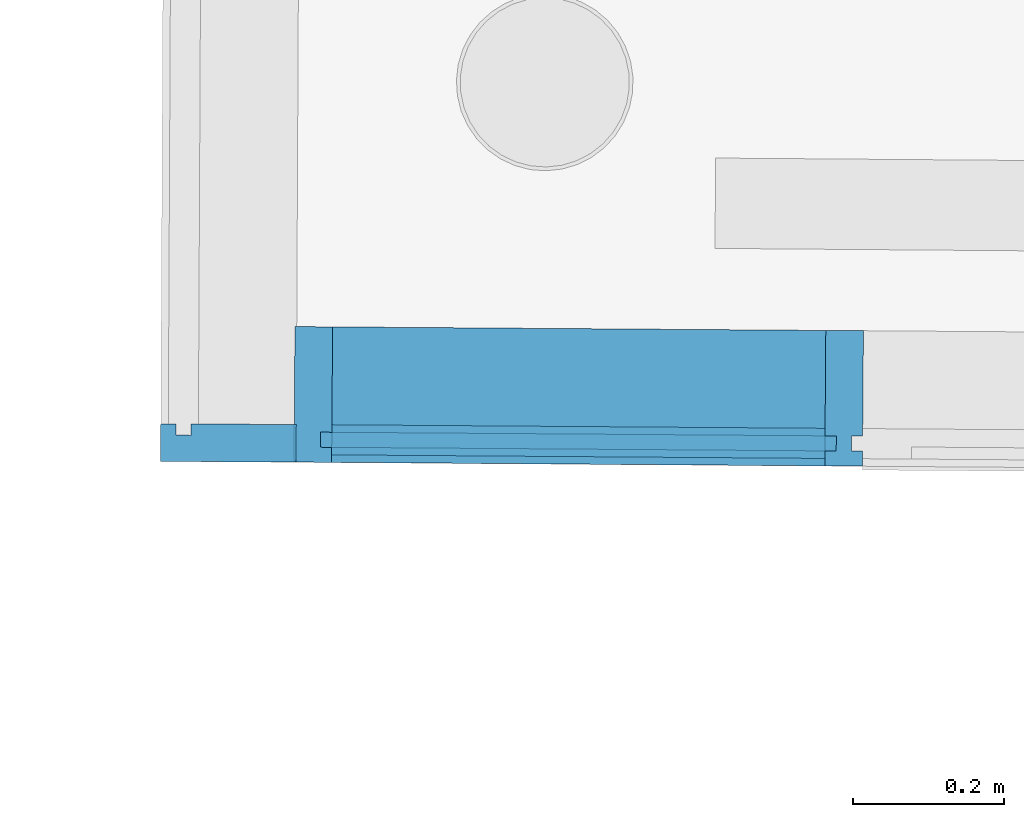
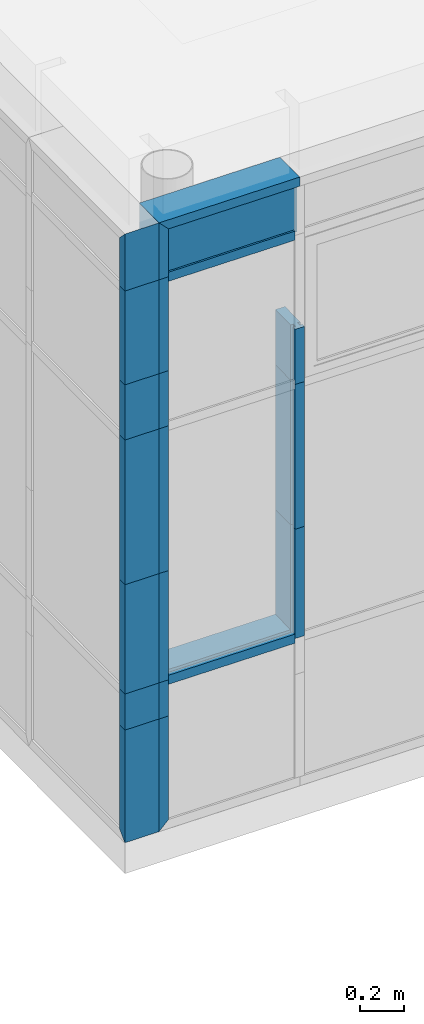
# One storey, part 166 of 196: 21 building element parts, 2 elements without a shape of their own.
"""IFC2X3 building model written with IfcOpenShell, lengths in metres."""

import ifcopenshell
import ifcopenshell.guid

model = None  # the IFC model being written
_history = None  # IfcOwnerHistory: only IFC2X3 demands one
_inside = {}  # id of a spatial element -> (the spatial element, [elements in it])
_under = {}  # id of a project, library or spatial element -> (it, [spatial elements below it])
_declared = {}  # id of a project -> (the project, [libraries it declares])
_typed = {}  # id of a type object -> (the type object, [elements of that type])
_made_of = {}  # id of a material, layer set ... -> (it, [elements and type objects made of it])


def new_model(schema):
    """Start an empty IFC model of exactly this schema.

    Asked for "IFC4X3", IfcOpenShell would pick the latest addendum, in which some entities
    have other attributes; the version numbers below select the first issue.
    IFC2X3 requires an IfcOwnerHistory on every rooted entity: one is made here for all.
    """
    global model, _history
    if schema == "IFC4X3":
        model = ifcopenshell.file(schema_version=(4, 3, 0, 0))
    else:
        model = ifcopenshell.file(schema=schema)
    _inside.clear()
    _under.clear()
    _declared.clear()
    _typed.clear()
    _made_of.clear()
    _history = None
    if model.schema == "IFC2X3":
        org = make("IfcOrganization", Name="unknown")
        user = make(
            "IfcPersonAndOrganization",
            ThePerson=make("IfcPerson", FamilyName="unknown"),
            TheOrganization=org,
        )
        app = make(
            "IfcApplication",
            ApplicationDeveloper=org,
            Version="unknown",
            ApplicationFullName="unknown",
            ApplicationIdentifier="unknown",
        )
        _history = make(
            "IfcOwnerHistory",
            OwningUser=user,
            OwningApplication=app,
            ChangeAction="ADDED",
            CreationDate=0,
        )
    return model


def make(cls, **values):
    """One entity of the class cls with the attributes given. An attribute that is None is left unset."""
    return model.create_entity(
        cls, **{name: value for name, value in values.items() if value is not None}
    )


def entity(cls, *values):
    """Any entity or typed value of the class cls, its attributes in the order of the schema. None: left unset."""
    e = model.create_entity(cls)
    for i, value in enumerate(values):
        if value is not None:
            e[i] = value
    return e


def rooted(cls, **values):
    """An entity with a GlobalId (a new one), such as an element, a storey or a relation."""
    return make(cls, GlobalId=ifcopenshell.guid.new(), OwnerHistory=_history, **values)


def si_unit(unit_type, name, prefix=None):
    """IfcSIUnit, for example si_unit("LENGTHUNIT", "METRE", prefix="MILLI")."""
    return make("IfcSIUnit", UnitType=unit_type, Prefix=prefix, Name=name)


def converted_unit(unit_type, name, factor, base, dimensions=None, offset=None):
    """IfcConversionBasedUnit, such as the inch: factor (a typed value) times the base unit."""
    return make(
        "IfcConversionBasedUnit"
        if offset is None
        else "IfcConversionBasedUnitWithOffset",
        ConversionOffset=offset,
        Dimensions=None
        if dimensions is None
        else entity("IfcDimensionalExponents", *dimensions),
        UnitType=unit_type,
        Name=name,
        ConversionFactor=make(
            "IfcMeasureWithUnit", ValueComponent=factor, UnitComponent=base
        ),
    )


def derived_unit(unit_type, elements):
    """IfcDerivedUnit: a product of units, each with its exponent."""
    return make(
        "IfcDerivedUnit",
        Elements=[
            make("IfcDerivedUnitElement", Unit=unit, Exponent=power)
            for unit, power in elements
        ],
        UnitType=unit_type,
    )


def money_unit(currency):
    """IfcMonetaryUnit."""
    return make("IfcMonetaryUnit", Currency=currency)


def assignment(units):
    """IfcUnitAssignment: the units of a project."""
    return None if units is None else make("IfcUnitAssignment", Units=units)


def point(xyz):
    """IfcCartesianPoint."""
    return None if xyz is None else make("IfcCartesianPoint", Coordinates=xyz)


def direction(xyz):
    """IfcDirection."""
    return None if xyz is None else make("IfcDirection", DirectionRatios=xyz)


def frame(location, z_axis=None, x_axis=None):
    """IfcAxis2Placement3D, a coordinate frame: its origin and axes. An axis left out is left unset."""
    return make(
        "IfcAxis2Placement3D",
        Location=point(location),
        Axis=direction(z_axis),
        RefDirection=direction(x_axis),
    )


def origin_with_axes():
    """The frame at (0, 0, 0) with the z axis (0, 0, 1) and the x axis (1, 0, 0) written out."""
    return frame((0.0, 0.0, 0.0), z_axis=(0.0, 0.0, 1.0), x_axis=(1.0, 0.0, 0.0))


def place(relative_to, where):
    """IfcLocalPlacement: puts the frame where relative to a parent placement (None: the world)."""
    return make(
        "IfcLocalPlacement", PlacementRelTo=relative_to, RelativePlacement=where
    )


def context(
    kind, dimensions, precision=None, world=None, true_north=None, identifier=None
):
    """IfcGeometricRepresentationContext, for example the 3D "Model" context."""
    return make(
        "IfcGeometricRepresentationContext",
        ContextIdentifier=identifier,
        ContextType=kind,
        CoordinateSpaceDimension=dimensions,
        Precision=precision,
        WorldCoordinateSystem=world,
        TrueNorth=true_north,
    )


def subcontext(parent, identifier, kind, view, scale=None):
    """IfcGeometricRepresentationSubContext, for example "Body" below "Model"."""
    return make(
        "IfcGeometricRepresentationSubContext",
        ContextIdentifier=identifier,
        ContextType=kind,
        ParentContext=parent,
        TargetScale=scale,
        TargetView=view,
    )


def project(units=None, contexts=None):
    """IfcProject with its units and contexts."""
    return rooted(
        "IfcProject",
        Name="project",
        RepresentationContexts=contexts,
        UnitsInContext=assignment(units),
    )


def spatial(cls, under=None, at=None, **own):
    """A site, building, storey or space (cls), placed at a placement, below another one or the project."""
    s = rooted(cls, ObjectPlacement=at, **own)
    if under is not None:
        _under.setdefault(under.id(), (under, []))[1].append(s)
    return s


def faces_of(points, faces, orient=None, outer=None):
    """IfcFace entities. A face is a list of loops; a loop is a list of indices into points, from 0.

    orient and outer hold one flag for each loop. By default every Orientation is true, the
    first loop of a face is its IfcFaceOuterBound and the others are IfcFaceBound.
    """
    made = []
    for i, loops in enumerate(faces):
        bounds = []
        for j, loop in enumerate(loops):
            is_outer = j == 0 if outer is None else outer[i][j]
            bounds.append(
                make(
                    "IfcFaceOuterBound" if is_outer else "IfcFaceBound",
                    Bound=make("IfcPolyLoop", Polygon=[points[k] for k in loop]),
                    Orientation=True if orient is None else orient[i][j],
                )
            )
        made.append(make("IfcFace", Bounds=bounds))
    return made


def faceted_brep(points, faces, orient=None, outer=None, voids=None):
    """IfcFacetedBrep: a solid bounded by flat faces; with voids (closed shells), ...WithVoids."""
    shared = [point(p) for p in points]
    hull = make("IfcClosedShell", CfsFaces=faces_of(shared, faces, orient, outer))
    if voids is None:
        return make("IfcFacetedBrep", Outer=hull)
    return make(
        "IfcFacetedBrepWithVoids",
        Outer=hull,
        Voids=[
            make(cls, CfsFaces=faces_of(shared, fs, o, b)) for cls, fs, o, b in voids
        ],
    )


def shape(context_of_items, identifier, shape_type, items):
    """IfcShapeRepresentation: the items that make up one representation, for example the "Body"."""
    return make(
        "IfcShapeRepresentation",
        ContextOfItems=context_of_items,
        RepresentationIdentifier=identifier,
        RepresentationType=shape_type,
        Items=items,
    )


def material(Name=None, Category=None):
    """IfcMaterial."""
    return make("IfcMaterial", Name=Name, Category=Category)


def made_of(thing, what):
    """Note that an element or type object is made of a material, layer set ...; save() writes the relation."""
    if what is not None:
        _made_of.setdefault(what.id(), (what, []))[1].append(thing)
    return thing


def type_object(cls, material=None, **own):
    """A type object (cls), such as IfcWallType, which elements share."""
    return made_of(rooted(cls, **own), material)


def element(
    cls,
    number,
    at=None,
    inside=None,
    cuts=None,
    type_object=None,
    material=None,
    context=None,
    identifier="Body",
    shape_type=None,
    held_by="IfcProductDefinitionShape",
    body=None,
    shapes=None,
    **own,
):
    """One element of the class cls, such as IfcWall. Its Tag is "e" and its number.

    at: its placement. inside: the storey or other place that contains it. cuts: it is an
    opening in that element (IfcRelVoidsElement). A single representation is given by context,
    identifier, shape_type and body (its items); several are given by shapes. held_by: the class
    of the entity that holds the representations. save() writes the other relations.
    """
    e = rooted(cls, Tag="e%d" % number, ObjectPlacement=at, **own)
    if body is not None:
        shapes = [shape(context, identifier, shape_type, body)]
    if shapes is not None:
        e.Representation = make(held_by, Representations=shapes)
    if inside is not None:
        _inside.setdefault(inside.id(), (inside, []))[1].append(e)
    if cuts is not None:
        rooted(
            "IfcRelVoidsElement", RelatingBuildingElement=cuts, RelatedOpeningElement=e
        )
    if type_object is not None:
        _typed.setdefault(type_object.id(), (type_object, []))[1].append(e)
    return made_of(e, material)


def aggregate(whole, parts):
    """IfcRelAggregates: a whole, such as a stair, and the parts it consists of."""
    return rooted("IfcRelAggregates", RelatingObject=whole, RelatedObjects=parts)


def save(model, path):
    """Write the relations noted so far, then the file.

    IfcRelAggregates (storeys below a building ...), IfcRelContainedInSpatialStructure (elements
    in a storey), IfcRelDefinesByType, IfcRelAssociatesMaterial and IfcRelDeclares: one each for
    every whole, place, type object, material and project.
    """
    for whole, parts in _under.values():
        aggregate(whole, parts)
    for where, things in _inside.values():
        rooted(
            "IfcRelContainedInSpatialStructure",
            RelatedElements=things,
            RelatingStructure=where,
        )
    for kind, things in _typed.values():
        rooted("IfcRelDefinesByType", RelatedObjects=things, RelatingType=kind)
    for what, things in _made_of.values():
        rooted("IfcRelAssociatesMaterial", RelatedObjects=things, RelatingMaterial=what)
    for by, libraries in _declared.values():
        rooted("IfcRelDeclares", RelatingContext=by, RelatedDefinitions=libraries)
    model.write(path)


model = new_model("IFC2X3")

# Units and contexts
model_context = context("Model", 3, precision=1e-05, world=origin_with_axes(), true_north=direction((0.0, 1.0)))
body_context = subcontext(model_context, "Body", "Model", "MODEL_VIEW")
ifc_project = project(units=[si_unit("LENGTHUNIT", "METRE"), si_unit("AREAUNIT", "SQUARE_METRE"), si_unit("VOLUMEUNIT", "CUBIC_METRE"), converted_unit("PLANEANGLEUNIT", "DEGREE", entity("IfcPlaneAngleMeasure", 0.0174532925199), si_unit("PLANEANGLEUNIT", "RADIAN"), dimensions=[0, 0, 0, 0, 0, 0, 0]), money_unit("EUR"), converted_unit("TIMEUNIT", "Year", entity("IfcTimeMeasure", 31556926.0), si_unit("TIMEUNIT", "SECOND"), dimensions=[0, 0, 1, 0, 0, 0, 0]), si_unit("MASSUNIT", "GRAM", prefix="KILO"), si_unit("THERMODYNAMICTEMPERATUREUNIT", "DEGREE_CELSIUS"), si_unit("LUMINOUSINTENSITYUNIT", "LUMEN"), si_unit("ENERGYUNIT", "JOULE", prefix="MEGA"), derived_unit("THERMALCONDUCTANCEUNIT", [(si_unit("POWERUNIT", "WATT"), 1), (si_unit("LENGTHUNIT", "METRE"), -1), (si_unit("THERMODYNAMICTEMPERATUREUNIT", "KELVIN"), -1)]), derived_unit("SPECIFICHEATCAPACITYUNIT", [(si_unit("ENERGYUNIT", "JOULE"), 1), (si_unit("MASSUNIT", "GRAM", prefix="KILO"), -1), (si_unit("THERMODYNAMICTEMPERATUREUNIT", "KELVIN"), -1)]), derived_unit("MASSDENSITYUNIT", [(si_unit("MASSUNIT", "GRAM", prefix="KILO"), 1), (si_unit("VOLUMEUNIT", "CUBIC_METRE"), -1)])], contexts=[model_context])

# Site, building, storey
site_placement = place(None, origin_with_axes())
site = spatial("IfcSite", under=ifc_project, at=site_placement, Name="Gelände", CompositionType="ELEMENT")
building_placement = place(site_placement, origin_with_axes())
building = spatial("IfcBuilding", under=site, at=building_placement, Name="Gebäude", CompositionType="ELEMENT")
storey_placement = place(building_placement, frame((0.0, 0.0, -3.0), z_axis=(0.0, 0.0, 1.0), x_axis=(1.0, 0.0, 0.0)))
storey = spatial("IfcBuildingStorey", under=building, at=storey_placement, Name="KELLERGESCHOSS", CompositionType="ELEMENT", Elevation=-3.0)

# Proxy, building element parts
building_element_proxy_type = type_object("IfcBuildingElementProxyType", Name="Fassadentyp", PredefinedType="NOTDEFINED")
proxy_1_placement = place(storey_placement, frame((2.54090824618, 35.7894672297, 0.610000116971), z_axis=(0.0, 0.0, 1.0), x_axis=(1.0, 0.0, 0.0)))
proxy_1 = element("IfcBuildingElementProxy", 1, at=proxy_1_placement, inside=storey, type_object=building_element_proxy_type, Name="Fassade-002")
ifc_material_1 = material(Name="45_Glas, Normalglas")
building_element_part_1_placement = place(proxy_1_placement, origin_with_axes())
building_element_part_1 = element("IfcBuildingElementPart", 2, at=building_element_part_1_placement, material=ifc_material_1, Name="45_Glas, Normalglas", context=body_context, shape_type="Brep", body=[
    faceted_brep([(-2.63393269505, 0.0390863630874, 3.31499993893), (-3.31904617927, 0.0440507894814, 3.31499993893), (-3.31933601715, 0.00405183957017, 3.31499993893), (-2.63422253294, -0.000912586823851, 3.31499993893), (-2.63393269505, 0.0390863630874, 3.04649576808), (-3.31904617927, 0.0440507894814, 3.04649576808), (-3.31933601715, 0.00405183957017, 3.04649576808), (-2.63422253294, -0.000912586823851, 3.04649576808)], [[[0, 1, 2, 3]], [[0, 4, 5, 1]], [[1, 5, 6, 2]], [[3, 2, 6, 7]], [[4, 0, 3, 7]], [[5, 4, 7, 6]]]),
])
ifc_material_2 = material(Name="53_Metall, Aluminium")
building_element_part_2_placement = place(proxy_1_placement, origin_with_axes())
building_element_part_2 = element("IfcBuildingElementPart", 3, at=building_element_part_2_placement, material=ifc_material_2, Name="53_Metall, Aluminium", context=body_context, shape_type="Brep", body=[
    faceted_brep([(-2.6240054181, 0.0290141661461, 3.31499994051), (-2.6240054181, 0.0290141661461, 3.29999994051), (-2.6229909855, 0.169010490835, 3.29999994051), (-2.6229909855, 0.169010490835, 3.34999994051), (-2.62429525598, -0.0109847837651, 3.34999994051), (-2.62429525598, -0.0109847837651, 3.29999994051), (-2.62415033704, 0.00901469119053, 3.29999994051), (-2.62415033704, 0.00901469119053, 3.31499994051), (-3.3191186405, 0.0340510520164, 3.31499994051), (-3.30411903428, 0.0339423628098, 3.29999994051), (-3.30310460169, 0.173938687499, 3.29999994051), (-3.35310328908, 0.174300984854, 3.34999994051), (-3.35440755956, -0.00569428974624, 3.34999994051), (-3.30440887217, -0.00605658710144, 3.29999994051), (-3.30426395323, 0.0139428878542, 3.29999994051), (-3.31926355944, 0.0140515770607, 3.31499994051)], [[[0, 1, 2, 3, 4, 5, 6, 7]], [[0, 8, 9, 1]], [[9, 10, 2, 1]], [[2, 10, 11, 3]], [[3, 11, 12, 4]], [[4, 12, 13, 5]], [[6, 5, 13, 14]], [[14, 15, 7, 6]], [[7, 15, 8, 0]], [[8, 15, 14, 13, 12, 11, 10, 9]]]),
])
building_element_part_3_placement = place(proxy_1_placement, origin_with_axes())
building_element_part_3 = element("IfcBuildingElementPart", 4, at=building_element_part_3_placement, material=ifc_material_2, Name="53_Metall, Aluminium", context=body_context, shape_type="Brep", body=[
    faceted_brep([(-2.64900476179, 0.0291953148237, 3.02649576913), (-2.64900476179, 0.0291953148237, 3.01149576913), (-2.6479903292, 0.169191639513, 3.01149576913), (-2.6479903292, 0.169191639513, 3.06149576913), (-2.64900476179, 0.0291953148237, 3.06149576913), (-2.64900476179, 0.0291953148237, 3.04649576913), (-2.64914968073, 0.00919583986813, 3.04649576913), (-2.64914968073, 0.00919583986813, 3.06149576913), (-2.64929459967, -0.0108036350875, 3.06149576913), (-2.64929459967, -0.0108036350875, 3.01149576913), (-2.64914968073, 0.00919583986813, 3.01149576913), (-2.64914968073, 0.00919583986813, 3.02649576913), (-3.30411903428, 0.0339423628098, 3.02649576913), (-3.30411903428, 0.0339423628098, 3.01149576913), (-3.30310460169, 0.173938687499, 3.01149576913), (-3.30310460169, 0.173938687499, 3.06149576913), (-3.30411903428, 0.0339423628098, 3.06149576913), (-3.30411903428, 0.0339423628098, 3.04649576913), (-3.30426395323, 0.0139428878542, 3.04649576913), (-3.30426395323, 0.0139428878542, 3.06149576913), (-3.30440887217, -0.00605658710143, 3.06149576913), (-3.30440887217, -0.00605658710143, 3.01149576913), (-3.30426395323, 0.0139428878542, 3.01149576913), (-3.30426395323, 0.0139428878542, 3.02649576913)], [[[0, 1, 2, 3, 4, 5, 6, 7, 8, 9, 10, 11]], [[1, 0, 12, 13]], [[1, 13, 14, 2]], [[2, 14, 15, 3]], [[4, 3, 15, 16]], [[4, 16, 17, 5]], [[5, 17, 18, 6]], [[7, 6, 18, 19]], [[19, 20, 8, 7]], [[8, 20, 21, 9]], [[22, 10, 9, 21]], [[11, 10, 22, 23]], [[0, 11, 23, 12]], [[23, 22, 21, 20, 19, 18, 17, 16, 15, 14, 13, 12]]]),
])
building_element_part_4_placement = place(proxy_1_placement, origin_with_axes())
building_element_part_4 = element("IfcBuildingElementPart", 5, at=building_element_part_4_placement, material=ifc_material_2, Name="53_Metall, Aluminium", context=body_context, shape_type="Brep", body=[
    faceted_brep([(-2.61400568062, 0.0289417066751, 1.41999988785), (-2.5990060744, 0.0288330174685, 1.41999988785), (-2.59799164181, 0.168829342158, 1.41999988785), (-2.6479903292, 0.169191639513, 1.41999988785), (-2.64900476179, 0.0291953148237, 1.41999988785), (-2.63400515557, 0.0290866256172, 1.41999988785), (-2.63415007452, 0.00908715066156, 1.41999988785), (-2.64914968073, 0.00919583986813, 1.41999988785), (-2.64929459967, -0.0108036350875, 1.41999988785), (-2.59929591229, -0.0111659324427, 1.41999988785), (-2.59915099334, 0.00883354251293, 1.41999988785), (-2.61415059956, 0.00894223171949, 1.41999988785), (-2.61400568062, 0.0289417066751, 0.818463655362), (-2.5990060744, 0.0288330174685, 0.818463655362), (-2.59799164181, 0.168829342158, 0.818463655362), (-2.6479903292, 0.169191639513, 0.818463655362), (-2.64900476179, 0.0291953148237, 0.818463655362), (-2.63400515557, 0.0290866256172, 0.818463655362), (-2.63415007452, 0.00908715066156, 0.818463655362), (-2.64914968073, 0.00919583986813, 0.818463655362), (-2.64929459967, -0.0108036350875, 0.818463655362), (-2.59929591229, -0.0111659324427, 0.818463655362), (-2.59915099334, 0.00883354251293, 0.818463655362), (-2.61415059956, 0.00894223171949, 0.818463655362)], [[[0, 1, 2, 3, 4, 5, 6, 7, 8, 9, 10, 11]], [[1, 0, 12, 13]], [[1, 13, 14, 2]], [[3, 2, 14, 15]], [[4, 3, 15, 16]], [[4, 16, 17, 5]], [[5, 17, 18, 6]], [[7, 6, 18, 19]], [[19, 20, 8, 7]], [[9, 8, 20, 21]], [[22, 10, 9, 21]], [[11, 10, 22, 23]], [[0, 11, 23, 12]], [[23, 22, 21, 20, 19, 18, 17, 16, 15, 14, 13, 12]]]),
])
building_element_part_5_placement = place(proxy_1_placement, origin_with_axes())
building_element_part_5 = element("IfcBuildingElementPart", 6, at=building_element_part_5_placement, material=ifc_material_2, Name="53_Metall, Aluminium", context=body_context, shape_type="Brep", body=[
    faceted_brep([(-2.64900476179, 0.0291953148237, 0.808463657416), (-2.64900476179, 0.0291953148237, 0.793463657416), (-2.6479903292, 0.169191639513, 0.793463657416), (-2.6479903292, 0.169191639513, 0.843463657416), (-2.64900476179, 0.0291953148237, 0.843463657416), (-2.64900476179, 0.0291953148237, 0.828463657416), (-2.64914968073, 0.00919583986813, 0.828463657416), (-2.64914968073, 0.00919583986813, 0.843463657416), (-2.64929459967, -0.0108036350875, 0.843463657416), (-2.64929459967, -0.0108036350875, 0.793463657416), (-2.64914968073, 0.00919583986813, 0.793463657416), (-2.64914968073, 0.00919583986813, 0.808463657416), (-3.30411903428, 0.0339423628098, 0.808463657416), (-3.30411903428, 0.0339423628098, 0.793463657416), (-3.30310460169, 0.173938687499, 0.793463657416), (-3.30310460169, 0.173938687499, 0.843463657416), (-3.30411903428, 0.0339423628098, 0.843463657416), (-3.30411903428, 0.0339423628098, 0.828463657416), (-3.30426395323, 0.0139428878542, 0.828463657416), (-3.30426395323, 0.0139428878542, 0.843463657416), (-3.30440887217, -0.00605658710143, 0.843463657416), (-3.30440887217, -0.00605658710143, 0.793463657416), (-3.30426395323, 0.0139428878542, 0.793463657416), (-3.30426395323, 0.0139428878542, 0.808463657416)], [[[0, 1, 2, 3, 4, 5, 6, 7, 8, 9, 10, 11]], [[1, 0, 12, 13]], [[1, 13, 14, 2]], [[2, 14, 15, 3]], [[4, 3, 15, 16]], [[4, 16, 17, 5]], [[5, 17, 18, 6]], [[7, 6, 18, 19]], [[19, 20, 8, 7]], [[8, 20, 21, 9]], [[22, 10, 9, 21]], [[11, 10, 22, 23]], [[0, 11, 23, 12]], [[23, 22, 21, 20, 19, 18, 17, 16, 15, 14, 13, 12]]]),
])
building_element_part_6_placement = place(proxy_1_placement, origin_with_axes())
building_element_part_6 = element("IfcBuildingElementPart", 7, at=building_element_part_6_placement, material=ifc_material_2, Name="53_Metall, Aluminium", context=body_context, shape_type="Brep", body=[
    faceted_brep([(-3.3191186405, 0.0340510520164, 1.41999988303), (-3.30411903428, 0.0339423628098, 1.41999988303), (-3.30310460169, 0.173938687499, 1.41999988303), (-3.35310328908, 0.174300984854, 1.41999988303), (-3.35440755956, -0.00569428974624, 1.41999988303), (-3.30440887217, -0.00605658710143, 1.41999988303), (-3.30426395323, 0.0139428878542, 1.41999988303), (-3.31926355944, 0.0140515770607, 1.41999988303), (-3.3191186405, 0.0340510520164, 0.818463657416), (-3.30411903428, 0.0339423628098, 0.818463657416), (-3.30310460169, 0.173938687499, 0.818463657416), (-3.35310328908, 0.174300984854, 0.818463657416), (-3.35440755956, -0.00569428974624, 0.818463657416), (-3.30440887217, -0.00605658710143, 0.818463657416), (-3.30426395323, 0.0139428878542, 0.818463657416), (-3.31926355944, 0.0140515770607, 0.818463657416)], [[[0, 1, 2, 3, 4, 5, 6, 7]], [[0, 8, 9, 1]], [[9, 10, 2, 1]], [[10, 11, 3, 2]], [[11, 12, 4, 3]], [[12, 13, 5, 4]], [[6, 5, 13, 14]], [[14, 15, 7, 6]], [[7, 15, 8, 0]], [[8, 15, 14, 13, 12, 11, 10, 9]]]),
])
building_element_part_7_placement = place(proxy_1_placement, origin_with_axes())
building_element_part_7 = element("IfcBuildingElementPart", 8, at=building_element_part_7_placement, material=ifc_material_2, Name="53_Metall, Aluminium", context=body_context, shape_type="Brep", body=[
    faceted_brep([(-3.3191186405, 0.0340510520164, 2.51999988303), (-3.30411903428, 0.0339423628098, 2.51999988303), (-3.30310460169, 0.173938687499, 2.51999988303), (-3.35310328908, 0.174300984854, 2.51999988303), (-3.35440755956, -0.00569428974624, 2.51999988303), (-3.30440887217, -0.00605658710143, 2.51999988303), (-3.30426395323, 0.0139428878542, 2.51999988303), (-3.31926355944, 0.0140515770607, 2.51999988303), (-3.3191186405, 0.0340510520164, 2.21648768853), (-3.30411903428, 0.0339423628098, 2.21648768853), (-3.30310460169, 0.173938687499, 2.21648768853), (-3.35310328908, 0.174300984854, 2.21648768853), (-3.35440755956, -0.00569428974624, 2.21648768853), (-3.30440887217, -0.00605658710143, 2.21648768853), (-3.30426395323, 0.0139428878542, 2.21648768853), (-3.31926355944, 0.0140515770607, 2.21648768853)], [[[0, 1, 2, 3, 4, 5, 6, 7]], [[0, 8, 9, 1]], [[9, 10, 2, 1]], [[10, 11, 3, 2]], [[11, 12, 4, 3]], [[12, 13, 5, 4]], [[6, 5, 13, 14]], [[14, 15, 7, 6]], [[7, 15, 8, 0]], [[8, 15, 14, 13, 12, 11, 10, 9]]]),
])
building_element_part_8_placement = place(proxy_1_placement, origin_with_axes())
building_element_part_8 = element("IfcBuildingElementPart", 9, at=building_element_part_8_placement, material=ifc_material_2, Name="53_Metall, Aluminium", context=body_context, shape_type="Brep", body=[
    faceted_brep([(-3.3191186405, 0.0340510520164, 3.31499994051), (-3.30411903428, 0.0339423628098, 3.29999994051), (-3.30310460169, 0.173938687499, 3.29999994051), (-3.35310328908, 0.174300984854, 3.34999994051), (-3.35440755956, -0.00569428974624, 3.34999994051), (-3.30440887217, -0.00605658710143, 3.29999994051), (-3.30426395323, 0.0139428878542, 3.29999994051), (-3.31926355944, 0.0140515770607, 3.31499994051), (-3.3191186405, 0.0340510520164, 3.03649576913), (-3.30411903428, 0.0339423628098, 3.03649576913), (-3.30310460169, 0.173938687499, 3.03649576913), (-3.35310328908, 0.174300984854, 3.03649576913), (-3.35440755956, -0.00569428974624, 3.03649576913), (-3.30440887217, -0.00605658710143, 3.03649576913), (-3.30426395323, 0.0139428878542, 3.03649576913), (-3.31926355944, 0.0140515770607, 3.03649576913)], [[[0, 1, 2, 3, 4, 5, 6, 7]], [[0, 8, 9, 1]], [[9, 10, 2, 1]], [[10, 11, 3, 2]], [[11, 12, 4, 3]], [[12, 13, 5, 4]], [[6, 5, 13, 14]], [[14, 15, 7, 6]], [[7, 15, 8, 0]], [[8, 15, 14, 13, 12, 11, 10, 9]]]),
])
building_element_part_9_placement = place(proxy_1_placement, origin_with_axes())
building_element_part_9 = element("IfcBuildingElementPart", 10, at=building_element_part_9_placement, material=ifc_material_2, Name="53_Metall, Aluminium", context=body_context, shape_type="Brep", body=[
    faceted_brep([(-2.61400568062, 0.0289417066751, 2.51999988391), (-2.5990060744, 0.0288330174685, 2.51999988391), (-2.59799164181, 0.168829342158, 2.51999988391), (-2.6479903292, 0.169191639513, 2.51999988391), (-2.64900476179, 0.0291953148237, 2.51999988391), (-2.63400515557, 0.0290866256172, 2.51999988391), (-2.63415007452, 0.00908715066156, 2.51999988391), (-2.64914968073, 0.00919583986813, 2.51999988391), (-2.64929459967, -0.0108036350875, 2.51999988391), (-2.59929591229, -0.0111659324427, 2.51999988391), (-2.59915099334, 0.00883354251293, 2.51999988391), (-2.61415059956, 0.00894223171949, 2.51999988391), (-2.61400568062, 0.0289417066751, 2.21648768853), (-2.5990060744, 0.0288330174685, 2.21648768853), (-2.59799164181, 0.168829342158, 2.21648768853), (-2.6479903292, 0.169191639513, 2.21648768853), (-2.64900476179, 0.0291953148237, 2.21648768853), (-2.63400515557, 0.0290866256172, 2.21648768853), (-2.63415007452, 0.00908715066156, 2.21648768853), (-2.64914968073, 0.00919583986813, 2.21648768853), (-2.64929459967, -0.0108036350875, 2.21648768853), (-2.59929591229, -0.0111659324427, 2.21648768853), (-2.59915099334, 0.00883354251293, 2.21648768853), (-2.61415059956, 0.00894223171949, 2.21648768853)], [[[0, 1, 2, 3, 4, 5, 6, 7, 8, 9, 10, 11]], [[1, 0, 12, 13]], [[1, 13, 14, 2]], [[3, 2, 14, 15]], [[4, 3, 15, 16]], [[4, 16, 17, 5]], [[5, 17, 18, 6]], [[7, 6, 18, 19]], [[19, 20, 8, 7]], [[9, 8, 20, 21]], [[22, 10, 9, 21]], [[11, 10, 22, 23]], [[0, 11, 23, 12]], [[23, 22, 21, 20, 19, 18, 17, 16, 15, 14, 13, 12]]]),
])
building_element_part_10_placement = place(proxy_1_placement, origin_with_axes())
building_element_part_10 = element("IfcBuildingElementPart", 11, at=building_element_part_10_placement, material=ifc_material_2, Name="53_Metall, Aluminium", context=body_context, shape_type="Brep", body=[
    faceted_brep([(-3.3191186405, 0.0340510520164, 0.619999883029), (-3.30411903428, 0.0339423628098, 0.619999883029), (-3.30310460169, 0.173938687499, 0.619999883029), (-3.35310328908, 0.174300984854, 0.619999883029), (-3.35440755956, -0.00569428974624, 0.619999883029), (-3.30440887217, -0.00605658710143, 0.619999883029), (-3.30426395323, 0.0139428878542, 0.619999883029), (-3.31926355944, 0.0140515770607, 0.619999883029), (-3.3191186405, 0.0340510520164, 0.0349999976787), (-3.30411903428, 0.0339423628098, 0.0499999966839), (-3.30310460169, 0.173938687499, 0.0499999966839), (-3.35310328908, 0.174300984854, 0.0), (-3.35440755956, -0.00569428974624, 0.0), (-3.30440887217, -0.00605658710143, 0.0499999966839), (-3.30426395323, 0.0139428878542, 0.0499999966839), (-3.31926355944, 0.0140515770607, 0.0349999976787)], [[[0, 1, 2, 3, 4, 5, 6, 7]], [[0, 8, 9, 1]], [[9, 10, 2, 1]], [[2, 10, 11, 3]], [[3, 11, 12, 4]], [[4, 12, 13, 5]], [[6, 5, 13, 14]], [[14, 15, 7, 6]], [[7, 15, 8, 0]], [[8, 15, 14, 13, 12, 11, 10, 9]]]),
])
building_element_part_11_placement = place(proxy_1_placement, origin_with_axes())
building_element_part_11 = element("IfcBuildingElementPart", 12, at=building_element_part_11_placement, material=ifc_material_2, Name="53_Metall, Aluminium", context=body_context, shape_type="Brep", body=[
    faceted_brep([(-2.61400568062, 0.0289417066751, 2.21648768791), (-2.5990060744, 0.0288330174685, 2.21648768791), (-2.59799164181, 0.168829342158, 2.21648768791), (-2.6479903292, 0.169191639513, 2.21648768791), (-2.64900476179, 0.0291953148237, 2.21648768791), (-2.63400515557, 0.0290866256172, 2.21648768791), (-2.63415007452, 0.00908715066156, 2.21648768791), (-2.64914968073, 0.00919583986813, 2.21648768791), (-2.64929459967, -0.0108036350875, 2.21648768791), (-2.59929591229, -0.0111659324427, 2.21648768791), (-2.59915099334, 0.00883354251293, 2.21648768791), (-2.61415059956, 0.00894223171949, 2.21648768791), (-2.61400568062, 0.0289417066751, 1.41999988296), (-2.5990060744, 0.0288330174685, 1.41999988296), (-2.59799164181, 0.168829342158, 1.41999988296), (-2.6479903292, 0.169191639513, 1.41999988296), (-2.64900476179, 0.0291953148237, 1.41999988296), (-2.63400515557, 0.0290866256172, 1.41999988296), (-2.63415007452, 0.00908715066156, 1.41999988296), (-2.64914968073, 0.00919583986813, 1.41999988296), (-2.64929459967, -0.0108036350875, 1.41999988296), (-2.59929591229, -0.0111659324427, 1.41999988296), (-2.59915099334, 0.00883354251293, 1.41999988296), (-2.61415059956, 0.00894223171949, 1.41999988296)], [[[0, 1, 2, 3, 4, 5, 6, 7, 8, 9, 10, 11]], [[1, 0, 12, 13]], [[1, 13, 14, 2]], [[3, 2, 14, 15]], [[4, 3, 15, 16]], [[4, 16, 17, 5]], [[5, 17, 18, 6]], [[7, 6, 18, 19]], [[19, 20, 8, 7]], [[9, 8, 20, 21]], [[22, 10, 9, 21]], [[11, 10, 22, 23]], [[0, 11, 23, 12]], [[23, 22, 21, 20, 19, 18, 17, 16, 15, 14, 13, 12]]]),
])
building_element_part_12_placement = place(proxy_1_placement, origin_with_axes())
building_element_part_12 = element("IfcBuildingElementPart", 13, at=building_element_part_12_placement, material=ifc_material_2, Name="53_Metall, Aluminium", context=body_context, shape_type="Brep", body=[
    faceted_brep([(-3.3191186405, 0.0340510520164, 2.21648768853), (-3.30411903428, 0.0339423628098, 2.21648768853), (-3.30310460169, 0.173938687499, 2.21648768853), (-3.35310328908, 0.174300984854, 2.21648768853), (-3.35440755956, -0.00569428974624, 2.21648768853), (-3.30440887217, -0.00605658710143, 2.21648768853), (-3.30426395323, 0.0139428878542, 2.21648768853), (-3.31926355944, 0.0140515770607, 2.21648768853), (-3.3191186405, 0.0340510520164, 1.41999988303), (-3.30411903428, 0.0339423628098, 1.41999988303), (-3.30310460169, 0.173938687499, 1.41999988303), (-3.35310328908, 0.174300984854, 1.41999988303), (-3.35440755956, -0.00569428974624, 1.41999988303), (-3.30440887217, -0.00605658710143, 1.41999988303), (-3.30426395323, 0.0139428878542, 1.41999988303), (-3.31926355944, 0.0140515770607, 1.41999988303)], [[[0, 1, 2, 3, 4, 5, 6, 7]], [[0, 8, 9, 1]], [[9, 10, 2, 1]], [[10, 11, 3, 2]], [[11, 12, 4, 3]], [[12, 13, 5, 4]], [[6, 5, 13, 14]], [[14, 15, 7, 6]], [[7, 15, 8, 0]], [[8, 15, 14, 13, 12, 11, 10, 9]]]),
])
building_element_part_13_placement = place(proxy_1_placement, origin_with_axes())
building_element_part_13 = element("IfcBuildingElementPart", 14, at=building_element_part_13_placement, material=ifc_material_2, Name="53_Metall, Aluminium", context=body_context, shape_type="Brep", body=[
    faceted_brep([(-3.3191186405, 0.0340510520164, 0.818463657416), (-3.30411903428, 0.0339423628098, 0.818463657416), (-3.30310460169, 0.173938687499, 0.818463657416), (-3.35310328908, 0.174300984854, 0.818463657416), (-3.35440755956, -0.00569428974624, 0.818463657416), (-3.30440887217, -0.00605658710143, 0.818463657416), (-3.30426395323, 0.0139428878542, 0.818463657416), (-3.31926355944, 0.0140515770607, 0.818463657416), (-3.3191186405, 0.0340510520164, 0.619999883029), (-3.30411903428, 0.0339423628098, 0.619999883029), (-3.30310460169, 0.173938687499, 0.619999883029), (-3.35310328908, 0.174300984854, 0.619999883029), (-3.35440755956, -0.00569428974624, 0.619999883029), (-3.30440887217, -0.00605658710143, 0.619999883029), (-3.30426395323, 0.0139428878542, 0.619999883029), (-3.31926355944, 0.0140515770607, 0.619999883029)], [[[0, 1, 2, 3, 4, 5, 6, 7]], [[0, 8, 9, 1]], [[9, 10, 2, 1]], [[10, 11, 3, 2]], [[11, 12, 4, 3]], [[12, 13, 5, 4]], [[6, 5, 13, 14]], [[14, 15, 7, 6]], [[7, 15, 8, 0]], [[8, 15, 14, 13, 12, 11, 10, 9]]]),
])
building_element_part_14_placement = place(proxy_1_placement, origin_with_axes())
building_element_part_14 = element("IfcBuildingElementPart", 15, at=building_element_part_14_placement, material=ifc_material_2, Name="53_Metall, Aluminium", context=body_context, shape_type="Brep", body=[
    faceted_brep([(-3.3191186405, 0.0340510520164, 3.03649576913), (-3.30411903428, 0.0339423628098, 3.03649576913), (-3.30310460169, 0.173938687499, 3.03649576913), (-3.35310328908, 0.174300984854, 3.03649576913), (-3.35440755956, -0.00569428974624, 3.03649576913), (-3.30440887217, -0.00605658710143, 3.03649576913), (-3.30426395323, 0.0139428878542, 3.03649576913), (-3.31926355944, 0.0140515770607, 3.03649576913), (-3.3191186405, 0.0340510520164, 2.51999988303), (-3.30411903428, 0.0339423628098, 2.51999988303), (-3.30310460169, 0.173938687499, 2.51999988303), (-3.35310328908, 0.174300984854, 2.51999988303), (-3.35440755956, -0.00569428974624, 2.51999988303), (-3.30440887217, -0.00605658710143, 2.51999988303), (-3.30426395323, 0.0139428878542, 2.51999988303), (-3.31926355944, 0.0140515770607, 2.51999988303)], [[[0, 1, 2, 3, 4, 5, 6, 7]], [[0, 8, 9, 1]], [[9, 10, 2, 1]], [[10, 11, 3, 2]], [[11, 12, 4, 3]], [[12, 13, 5, 4]], [[6, 5, 13, 14]], [[14, 15, 7, 6]], [[7, 15, 8, 0]], [[8, 15, 14, 13, 12, 11, 10, 9]]]),
])
aggregate(proxy_1, [building_element_part_1, building_element_part_2, building_element_part_3, building_element_part_4, building_element_part_5, building_element_part_6, building_element_part_7, building_element_part_8, building_element_part_9, building_element_part_10, building_element_part_11, building_element_part_12, building_element_part_13, building_element_part_14])

proxy_2_placement = place(storey_placement, frame((-0.953000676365, 37.3811147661, 0.610000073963), z_axis=(0.0, 0.0, 1.0), x_axis=(1.0, 0.0, 0.0)))
proxy_2 = element("IfcBuildingElementProxy", 16, at=proxy_2_placement, inside=storey, type_object=building_element_proxy_type, Name="Fassade-002")
building_element_part_15_placement = place(proxy_2_placement, origin_with_axes())
building_element_part_15 = element("IfcBuildingElementPart", 17, at=building_element_part_15_placement, material=ifc_material_2, Name="53_Metall, Aluminium", context=body_context, shape_type="Brep", body=[
    faceted_brep([(0.00245926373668, -1.56167968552, 0.619999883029), (-0.0175405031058, -1.56158311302, 0.619999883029), (-0.0174680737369, -1.54658328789, 0.619999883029), (-0.0374678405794, -1.5464867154, 0.619999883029), (-0.037709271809, -1.59648613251, 0.619999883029), (0.142288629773, -1.59735528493, 0.619999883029), (0.142530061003, -1.54735586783, 0.619999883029), (0.00253169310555, -1.54667986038, 0.619999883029), (0.00245926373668, -1.56167968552, 0.0349999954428), (-0.0175405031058, -1.56158311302, 0.0349999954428), (-0.0174680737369, -1.54658328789, 0.0499999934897), (-0.0374678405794, -1.5464867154, 0.0499999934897), (-0.037709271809, -1.59648613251, 0.0), (0.142288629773, -1.59735528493, 0.0), (0.142530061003, -1.54735586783, 0.0499999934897), (0.00253169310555, -1.54667986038, 0.0499999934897)], [[[0, 1, 2, 3, 4, 5, 6, 7]], [[1, 0, 8, 9]], [[10, 2, 1, 9]], [[2, 10, 11, 3]], [[4, 3, 11, 12]], [[5, 4, 12, 13]], [[6, 5, 13, 14]], [[15, 7, 6, 14]], [[0, 7, 15, 8]], [[8, 15, 14, 13, 12, 11, 10, 9]]]),
])
building_element_part_16_placement = place(proxy_2_placement, origin_with_axes())
building_element_part_16 = element("IfcBuildingElementPart", 18, at=building_element_part_16_placement, material=ifc_material_2, Name="53_Metall, Aluminium", context=body_context, shape_type="Brep", body=[
    faceted_brep([(0.00245926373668, -1.56167968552, 0.818463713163), (-0.0175405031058, -1.56158311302, 0.818463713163), (-0.0174680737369, -1.54658328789, 0.818463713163), (-0.0374678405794, -1.5464867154, 0.818463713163), (-0.037709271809, -1.59648613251, 0.818463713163), (0.142288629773, -1.59735528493, 0.818463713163), (0.142530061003, -1.54735586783, 0.818463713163), (0.00253169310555, -1.54667986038, 0.818463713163), (0.00245926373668, -1.56167968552, 0.619999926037), (-0.0175405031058, -1.56158311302, 0.619999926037), (-0.0174680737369, -1.54658328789, 0.619999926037), (-0.0374678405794, -1.5464867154, 0.619999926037), (-0.037709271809, -1.59648613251, 0.619999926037), (0.142288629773, -1.59735528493, 0.619999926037), (0.142530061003, -1.54735586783, 0.619999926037), (0.00253169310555, -1.54667986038, 0.619999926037)], [[[0, 1, 2, 3, 4, 5, 6, 7]], [[1, 0, 8, 9]], [[10, 2, 1, 9]], [[2, 10, 11, 3]], [[12, 4, 3, 11]], [[13, 5, 4, 12]], [[14, 6, 5, 13]], [[15, 7, 6, 14]], [[0, 7, 15, 8]], [[8, 15, 14, 13, 12, 11, 10, 9]]]),
])
building_element_part_17_placement = place(proxy_2_placement, origin_with_axes())
building_element_part_17 = element("IfcBuildingElementPart", 19, at=building_element_part_17_placement, material=ifc_material_2, Name="53_Metall, Aluminium", context=body_context, shape_type="Brep", body=[
    faceted_brep([(0.00245926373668, -1.56167968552, 1.41999992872), (-0.0175405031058, -1.56158311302, 1.41999992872), (-0.0174680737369, -1.54658328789, 1.41999992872), (-0.0374678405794, -1.5464867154, 1.41999992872), (-0.037709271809, -1.59648613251, 1.41999992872), (0.142288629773, -1.59735528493, 1.41999992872), (0.142530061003, -1.54735586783, 1.41999992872), (0.00253169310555, -1.54667986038, 1.41999992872), (0.00245926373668, -1.56167968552, 0.818463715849), (-0.0175405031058, -1.56158311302, 0.818463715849), (-0.0174680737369, -1.54658328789, 0.818463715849), (-0.0374678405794, -1.5464867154, 0.818463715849), (-0.037709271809, -1.59648613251, 0.818463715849), (0.142288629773, -1.59735528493, 0.818463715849), (0.142530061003, -1.54735586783, 0.818463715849), (0.00253169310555, -1.54667986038, 0.818463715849)], [[[0, 1, 2, 3, 4, 5, 6, 7]], [[1, 0, 8, 9]], [[10, 2, 1, 9]], [[2, 10, 11, 3]], [[12, 4, 3, 11]], [[13, 5, 4, 12]], [[14, 6, 5, 13]], [[15, 7, 6, 14]], [[0, 7, 15, 8]], [[8, 15, 14, 13, 12, 11, 10, 9]]]),
])
building_element_part_18_placement = place(proxy_2_placement, origin_with_axes())
building_element_part_18 = element("IfcBuildingElementPart", 20, at=building_element_part_18_placement, material=ifc_material_2, Name="53_Metall, Aluminium", context=body_context, shape_type="Brep", body=[
    faceted_brep([(0.00245926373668, -1.56167968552, 2.21648773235), (-0.0175405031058, -1.56158311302, 2.21648773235), (-0.0174680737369, -1.54658328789, 2.21648773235), (-0.0374678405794, -1.5464867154, 2.21648773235), (-0.037709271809, -1.59648613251, 2.21648773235), (0.142288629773, -1.59735528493, 2.21648773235), (0.142530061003, -1.54735586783, 2.21648773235), (0.00253169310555, -1.54667986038, 2.21648773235), (0.00245926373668, -1.56167968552, 1.41999992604), (-0.0175405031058, -1.56158311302, 1.41999992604), (-0.0174680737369, -1.54658328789, 1.41999992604), (-0.0374678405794, -1.5464867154, 1.41999992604), (-0.037709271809, -1.59648613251, 1.41999992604), (0.142288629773, -1.59735528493, 1.41999992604), (0.142530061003, -1.54735586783, 1.41999992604), (0.00253169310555, -1.54667986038, 1.41999992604)], [[[0, 1, 2, 3, 4, 5, 6, 7]], [[1, 0, 8, 9]], [[10, 2, 1, 9]], [[2, 10, 11, 3]], [[12, 4, 3, 11]], [[13, 5, 4, 12]], [[14, 6, 5, 13]], [[15, 7, 6, 14]], [[0, 7, 15, 8]], [[8, 15, 14, 13, 12, 11, 10, 9]]]),
])
building_element_part_19_placement = place(proxy_2_placement, origin_with_axes())
building_element_part_19 = element("IfcBuildingElementPart", 21, at=building_element_part_19_placement, material=ifc_material_2, Name="53_Metall, Aluminium", context=body_context, shape_type="Brep", body=[
    faceted_brep([(0.00245926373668, -1.56167968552, 2.51999993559), (-0.0175405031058, -1.56158311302, 2.51999993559), (-0.0174680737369, -1.54658328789, 2.51999993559), (-0.0374678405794, -1.5464867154, 2.51999993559), (-0.037709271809, -1.59648613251, 2.51999993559), (0.142288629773, -1.59735528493, 2.51999993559), (0.142530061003, -1.54735586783, 2.51999993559), (0.00253169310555, -1.54667986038, 2.51999993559), (0.00245926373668, -1.56167968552, 2.2164877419), (-0.0175405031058, -1.56158311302, 2.2164877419), (-0.0174680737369, -1.54658328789, 2.2164877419), (-0.0374678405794, -1.5464867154, 2.2164877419), (-0.037709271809, -1.59648613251, 2.2164877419), (0.142288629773, -1.59735528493, 2.2164877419), (0.142530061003, -1.54735586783, 2.2164877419), (0.00253169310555, -1.54667986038, 2.2164877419)], [[[0, 1, 2, 3, 4, 5, 6, 7]], [[1, 0, 8, 9]], [[10, 2, 1, 9]], [[2, 10, 11, 3]], [[12, 4, 3, 11]], [[13, 5, 4, 12]], [[14, 6, 5, 13]], [[15, 7, 6, 14]], [[0, 7, 15, 8]], [[8, 15, 14, 13, 12, 11, 10, 9]]]),
])
building_element_part_20_placement = place(proxy_2_placement, origin_with_axes())
building_element_part_20 = element("IfcBuildingElementPart", 22, at=building_element_part_20_placement, material=ifc_material_2, Name="53_Metall, Aluminium", context=body_context, shape_type="Brep", body=[
    faceted_brep([(0.00245926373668, -1.56167968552, 3.03649580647), (-0.0175405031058, -1.56158311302, 3.03649580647), (-0.0174680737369, -1.54658328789, 3.03649580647), (-0.0374678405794, -1.5464867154, 3.03649580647), (-0.037709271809, -1.59648613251, 3.03649580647), (0.142288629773, -1.59735528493, 3.03649580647), (0.142530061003, -1.54735586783, 3.03649580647), (0.00253169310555, -1.54667986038, 3.03649580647), (0.00245926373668, -1.56167968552, 2.51999992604), (-0.0175405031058, -1.56158311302, 2.51999992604), (-0.0174680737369, -1.54658328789, 2.51999992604), (-0.0374678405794, -1.5464867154, 2.51999992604), (-0.037709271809, -1.59648613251, 2.51999992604), (0.142288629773, -1.59735528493, 2.51999992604), (0.142530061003, -1.54735586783, 2.51999992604), (0.00253169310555, -1.54667986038, 2.51999992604)], [[[0, 1, 2, 3, 4, 5, 6, 7]], [[1, 0, 8, 9]], [[10, 2, 1, 9]], [[2, 10, 11, 3]], [[12, 4, 3, 11]], [[13, 5, 4, 12]], [[14, 6, 5, 13]], [[15, 7, 6, 14]], [[0, 7, 15, 8]], [[8, 15, 14, 13, 12, 11, 10, 9]]]),
])
building_element_part_21_placement = place(proxy_2_placement, origin_with_axes())
building_element_part_21 = element("IfcBuildingElementPart", 23, at=building_element_part_21_placement, material=ifc_material_2, Name="53_Metall, Aluminium", context=body_context, shape_type="Brep", body=[
    faceted_brep([(0.00245926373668, -1.56167968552, 3.314999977), (-0.0175405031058, -1.56158311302, 3.314999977), (-0.0174680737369, -1.54658328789, 3.299999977), (-0.0374678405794, -1.5464867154, 3.299999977), (-0.037709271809, -1.59648613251, 3.349999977), (0.142288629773, -1.59735528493, 3.349999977), (0.142530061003, -1.54735586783, 3.299999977), (0.00253169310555, -1.54667986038, 3.299999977), (0.00245926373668, -1.56167968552, 3.03649579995), (-0.0175405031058, -1.56158311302, 3.03649579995), (-0.0174680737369, -1.54658328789, 3.03649579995), (-0.0374678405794, -1.5464867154, 3.03649579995), (-0.037709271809, -1.59648613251, 3.03649579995), (0.142288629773, -1.59735528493, 3.03649579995), (0.142530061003, -1.54735586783, 3.03649579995), (0.00253169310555, -1.54667986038, 3.03649579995)], [[[0, 1, 2, 3, 4, 5, 6, 7]], [[1, 0, 8, 9]], [[10, 2, 1, 9]], [[2, 10, 11, 3]], [[12, 4, 3, 11]], [[13, 5, 4, 12]], [[14, 6, 5, 13]], [[15, 7, 6, 14]], [[0, 7, 15, 8]], [[8, 15, 14, 13, 12, 11, 10, 9]]]),
])
aggregate(proxy_2, [building_element_part_15, building_element_part_16, building_element_part_17, building_element_part_18, building_element_part_19, building_element_part_20, building_element_part_21])

save(model, "model.ifc")
